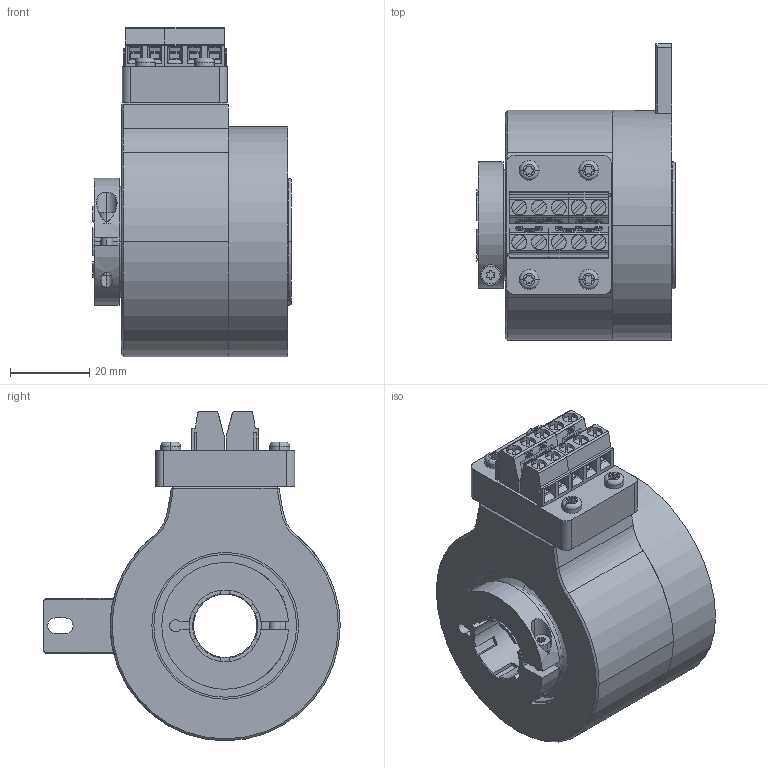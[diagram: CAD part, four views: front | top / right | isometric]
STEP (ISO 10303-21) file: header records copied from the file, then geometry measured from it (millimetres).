
FILE_DESCRIPTION (( 'STEP AP203' ), '1' );
FILE_NAME ('K58I.OXX.XXXXX.XC17516.XXRCF.step', '2025-12-03T07:50:01', ( '' ), ( '' ), 'SwSTEP 2.0', 'SolidWorks 2021', '' );
FILE_SCHEMA (( 'CONFIG_CONTROL_DESIGN' ));
Length unit declared in the file: millimetre
Products named in the file (1): K58I.OXX.XXXXX.XC17516.XXRCF
Bounding box: 50.1 x 74.75 x 83.12 mm (x, y, z)
Volume: 124559.5 mm3; surface area: 45758.4 mm2
Topology: 41 solids, 41 shells, 3068 faces, 8488 edges, 5587 vertices
Faces by surface type: plane 2472, cylinder 512, cone 44, bspline 30, torus 10
Entity records: 98609 total; most frequent: CARTESIAN_POINT 19378, ORIENTED_EDGE 16952, DIRECTION 15568, EDGE_CURVE 8476, VECTOR 7182, LINE 7182, VERTEX_POINT 5587, AXIS2_PLACEMENT_3D 4193
